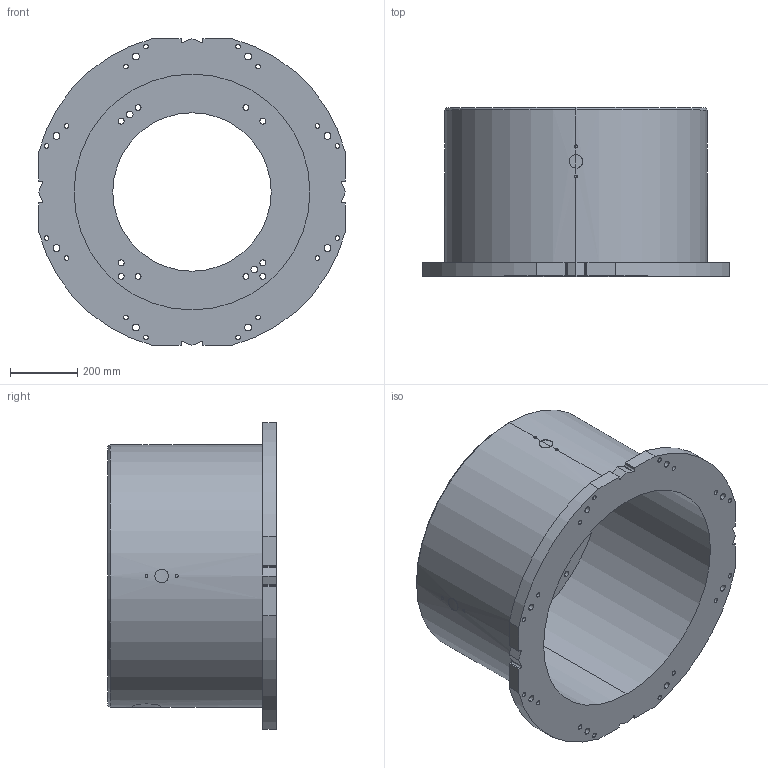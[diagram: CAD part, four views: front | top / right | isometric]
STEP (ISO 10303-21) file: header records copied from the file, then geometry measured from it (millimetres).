
FILE_DESCRIPTION (( 'STEP AP214' ), '1' );
FILE_NAME ('P-500.STEP', '2025-12-10T13:29:24', ( '' ), ( '' ), 'SwSTEP 2.0', 'SolidWorks 2022', '' );
FILE_SCHEMA (( 'AUTOMOTIVE_DESIGN' ));
Length unit declared in the file: millimetre
Products named in the file (1): P-500
Bounding box: 910 x 500 x 910 mm (x, y, z)
Volume: 62124082.2 mm3; surface area: 3388279.7 mm2
Topology: 1 solids, 1 shells, 182 faces, 496 edges, 326 vertices
Faces by surface type: cylinder 136, plane 28, bspline 16, cone 2
Entity records: 10248 total; most frequent: CARTESIAN_POINT 4680, ORIENTED_EDGE 992, DIRECTION 932, EDGE_CURVE 496, AXIS2_PLACEMENT_3D 365, VERTEX_POINT 326, EDGE_LOOP 266, LINE 202
